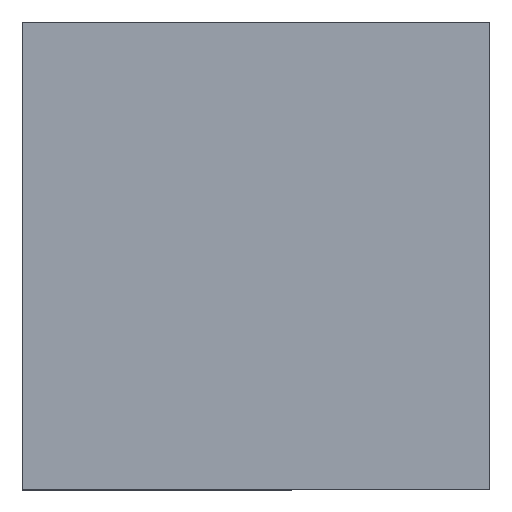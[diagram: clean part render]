
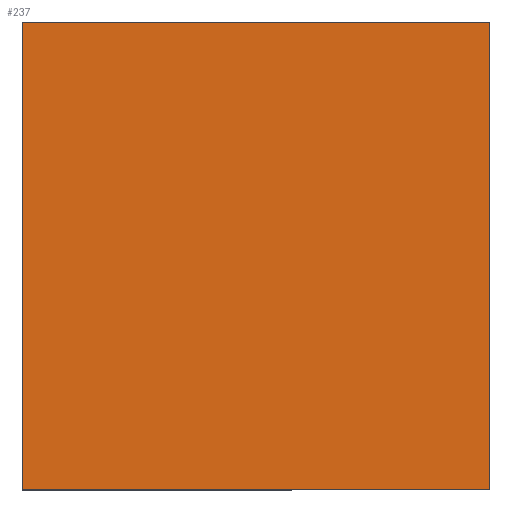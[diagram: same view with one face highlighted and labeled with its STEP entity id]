
A CAD part, top view. The second image highlights one B-rep face of the part: STEP entity #237.
In plain terms, the highlighted planar face has unit normal (0, 0, 1).
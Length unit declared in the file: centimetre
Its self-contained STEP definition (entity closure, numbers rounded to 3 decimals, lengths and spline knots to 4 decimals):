
#4 = CARTESIAN_POINT ( 'NONE',  ( 0., 0., 1000. ) ) ;
#31 = VERTEX_POINT ( 'NONE', #392 ) ;
#33 = DIRECTION ( 'NONE',  ( 1., 0., 0. ) ) ;
#44 = CARTESIAN_POINT ( 'NONE',  ( 0., 1000., 1000. ) ) ;
#64 = VECTOR ( 'NONE', #220, 100. ) ;
#88 = LINE ( 'NONE', #91, #64 ) ;
#89 = EDGE_CURVE ( 'NONE', #31, #341, #165, .T. ) ;
#91 = CARTESIAN_POINT ( 'NONE',  ( 0., 1000., 1000. ) ) ;
#94 = VECTOR ( 'NONE', #103, 100. ) ;
#97 = CARTESIAN_POINT ( 'NONE',  ( 0., 0., 1000. ) ) ;
#103 = DIRECTION ( 'NONE',  ( 0., -1., 0. ) ) ;
#107 = PLANE ( 'NONE',  #163 ) ;
#116 = VERTEX_POINT ( 'NONE', #320 ) ;
#119 = LINE ( 'NONE', #4, #258 ) ;
#121 = EDGE_CURVE ( 'NONE', #275, #116, #128, .T. ) ;
#124 = EDGE_LOOP ( 'NONE', ( #243, #269, #272, #299 ) ) ;
#128 = LINE ( 'NONE', #231, #182 ) ;
#143 = DIRECTION ( 'NONE',  ( 1., 0., 0. ) ) ;
#163 = AXIS2_PLACEMENT_3D ( 'NONE', #276, #233, #33 ) ;
#165 = LINE ( 'NONE', #44, #94 ) ;
#182 = VECTOR ( 'NONE', #360, 100. ) ;
#220 = DIRECTION ( 'NONE',  ( -1., 0., 0. ) ) ;
#231 = CARTESIAN_POINT ( 'NONE',  ( 1000., 1000., 1000. ) ) ;
#233 = DIRECTION ( 'NONE',  ( 0., 0., 1. ) ) ;
#237 = ADVANCED_FACE ( 'NONE', ( #377 ), #107, .T. ) ;
#243 = ORIENTED_EDGE ( 'NONE', *, *, #89, .T. ) ;
#258 = VECTOR ( 'NONE', #143, 100. ) ;
#262 = EDGE_CURVE ( 'NONE', #341, #275, #119, .T. ) ;
#269 = ORIENTED_EDGE ( 'NONE', *, *, #262, .T. ) ;
#272 = ORIENTED_EDGE ( 'NONE', *, *, #121, .T. ) ;
#274 = CARTESIAN_POINT ( 'NONE',  ( 1000., 0., 1000. ) ) ;
#275 = VERTEX_POINT ( 'NONE', #274 ) ;
#276 = CARTESIAN_POINT ( 'NONE',  ( 0., 0., 1000. ) ) ;
#299 = ORIENTED_EDGE ( 'NONE', *, *, #378, .T. ) ;
#320 = CARTESIAN_POINT ( 'NONE',  ( 1000., 1000., 1000. ) ) ;
#341 = VERTEX_POINT ( 'NONE', #97 ) ;
#360 = DIRECTION ( 'NONE',  ( 0., 1., 0. ) ) ;
#377 = FACE_OUTER_BOUND ( 'NONE', #124, .T. ) ;
#378 = EDGE_CURVE ( 'NONE', #116, #31, #88, .T. ) ;
#392 = CARTESIAN_POINT ( 'NONE',  ( 0., 1000., 1000. ) ) ;
